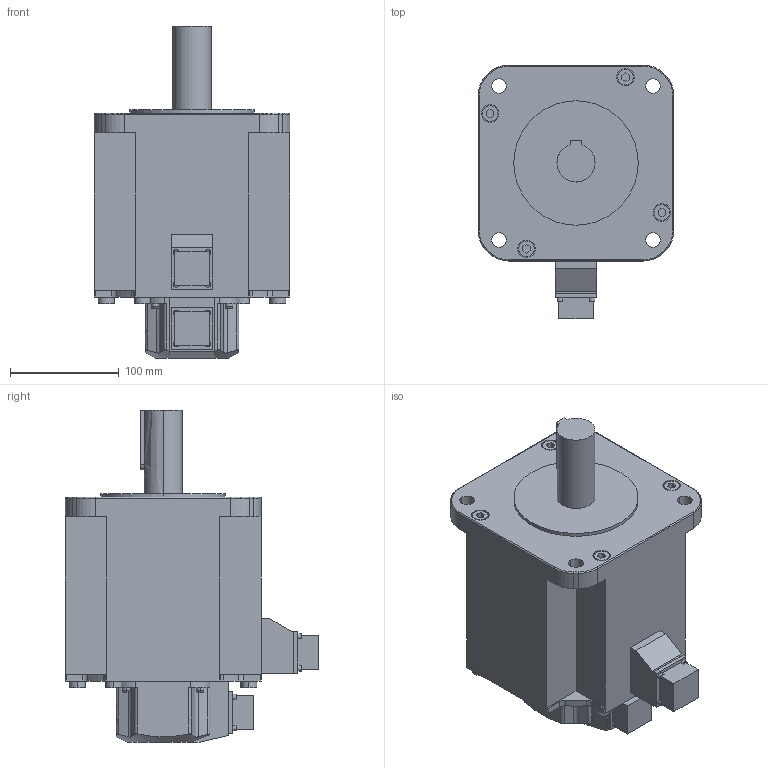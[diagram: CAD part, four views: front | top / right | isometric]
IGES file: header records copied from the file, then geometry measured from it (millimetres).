
Start section:  PTC IGES file: rsmh_20atk3.igs
Global section: file name: rsmh_20atk3.igs; native system: Pro/ENGINEER by Parametric Technology Corporation; preprocessor: 2004440; author: Administrator; organization: Unknown; date: 070829.192649; units: millimetre
Bounding box: 180 x 233 x 305 mm (x, y, z)
Volume: 5182645.3 mm3; surface area: 231156.5 mm2
Topology: 1 solids, 1 shells, 290 faces, 744 edges, 488 vertices
Faces by surface type: bspline 164, revolution 126
